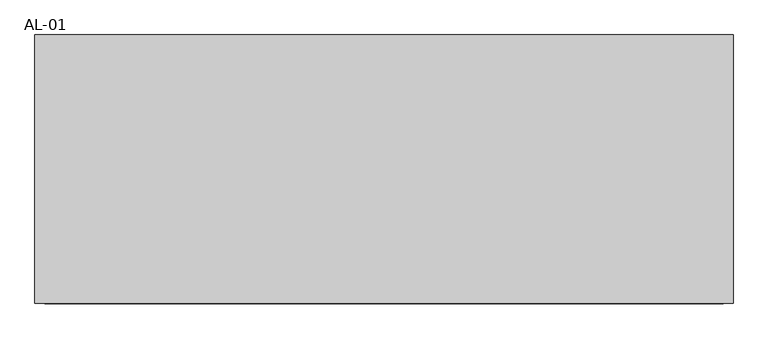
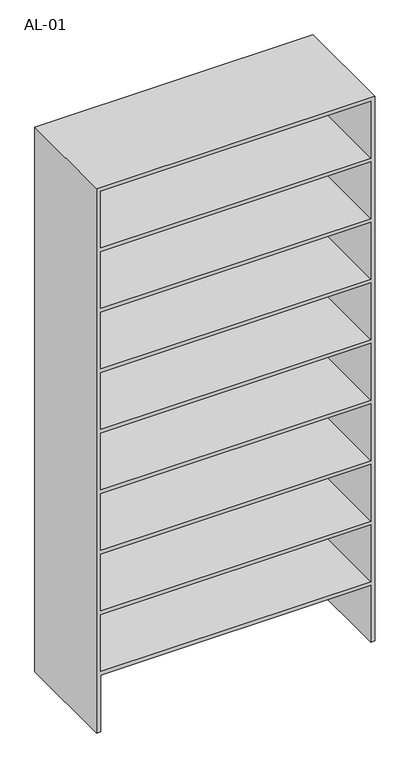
"""IFC4 building model written with IfcOpenShell, lengths in millimetres: furniture geometry, 8 ESTANTES-BLANCOS : AL-01."""

import ifcopenshell
import ifcopenshell.guid

model = None  # the IFC model being written
_history = None  # IfcOwnerHistory: only IFC2X3 demands one
_inside = {}  # id of a spatial element -> (the spatial element, [elements in it])
_under = {}  # id of a project, library or spatial element -> (it, [spatial elements below it])
_declared = {}  # id of a project -> (the project, [libraries it declares])
_typed = {}  # id of a type object -> (the type object, [elements of that type])
_made_of = {}  # id of a material, layer set ... -> (it, [elements and type objects made of it])


def new_model(schema):
    """Start an empty IFC model of exactly this schema.

    Asked for "IFC4X3", IfcOpenShell would pick the latest addendum, in which some entities
    have other attributes; the version numbers below select the first issue.
    IFC2X3 requires an IfcOwnerHistory on every rooted entity: one is made here for all.
    """
    global model, _history
    if schema == "IFC4X3":
        model = ifcopenshell.file(schema_version=(4, 3, 0, 0))
    else:
        model = ifcopenshell.file(schema=schema)
    _inside.clear()
    _under.clear()
    _declared.clear()
    _typed.clear()
    _made_of.clear()
    _history = None
    if model.schema == "IFC2X3":
        org = make("IfcOrganization", Name="unknown")
        user = make(
            "IfcPersonAndOrganization",
            ThePerson=make("IfcPerson", FamilyName="unknown"),
            TheOrganization=org,
        )
        app = make(
            "IfcApplication",
            ApplicationDeveloper=org,
            Version="unknown",
            ApplicationFullName="unknown",
            ApplicationIdentifier="unknown",
        )
        _history = make(
            "IfcOwnerHistory",
            OwningUser=user,
            OwningApplication=app,
            ChangeAction="ADDED",
            CreationDate=0,
        )
    return model


def make(cls, **values):
    """One entity of the class cls with the attributes given. An attribute that is None is left unset."""
    return model.create_entity(
        cls, **{name: value for name, value in values.items() if value is not None}
    )


def rooted(cls, **values):
    """An entity with a GlobalId (a new one), such as an element, a storey or a relation."""
    return make(cls, GlobalId=ifcopenshell.guid.new(), OwnerHistory=_history, **values)


def si_unit(unit_type, name, prefix=None):
    """IfcSIUnit, for example si_unit("LENGTHUNIT", "METRE", prefix="MILLI")."""
    return make("IfcSIUnit", UnitType=unit_type, Prefix=prefix, Name=name)


def assignment(units):
    """IfcUnitAssignment: the units of a project."""
    return None if units is None else make("IfcUnitAssignment", Units=units)


def point(xyz):
    """IfcCartesianPoint."""
    return None if xyz is None else make("IfcCartesianPoint", Coordinates=xyz)


def direction(xyz):
    """IfcDirection."""
    return None if xyz is None else make("IfcDirection", DirectionRatios=xyz)


def frame(location, z_axis=None, x_axis=None):
    """IfcAxis2Placement3D, a coordinate frame: its origin and axes. An axis left out is left unset."""
    return make(
        "IfcAxis2Placement3D",
        Location=point(location),
        Axis=direction(z_axis),
        RefDirection=direction(x_axis),
    )


def origin():
    """The frame at (0, 0, 0) with its axes left unset."""
    return frame((0.0, 0.0, 0.0))


def place(relative_to, where):
    """IfcLocalPlacement: puts the frame where relative to a parent placement (None: the world)."""
    return make(
        "IfcLocalPlacement", PlacementRelTo=relative_to, RelativePlacement=where
    )


def context(
    kind, dimensions, precision=None, world=None, true_north=None, identifier=None
):
    """IfcGeometricRepresentationContext, for example the 3D "Model" context."""
    return make(
        "IfcGeometricRepresentationContext",
        ContextIdentifier=identifier,
        ContextType=kind,
        CoordinateSpaceDimension=dimensions,
        Precision=precision,
        WorldCoordinateSystem=world,
        TrueNorth=true_north,
    )


def project(units=None, contexts=None):
    """IfcProject with its units and contexts."""
    return rooted(
        "IfcProject",
        Name="project",
        RepresentationContexts=contexts,
        UnitsInContext=assignment(units),
    )


def spatial(cls, under=None, at=None, **own):
    """A site, building, storey or space (cls), placed at a placement, below another one or the project."""
    s = rooted(cls, ObjectPlacement=at, **own)
    if under is not None:
        _under.setdefault(under.id(), (under, []))[1].append(s)
    return s


def polyline(points):
    """IfcPolyline through the points."""
    return make("IfcPolyline", Points=[point(p) for p in points])


def outline(outer, holes=None, kind="AREA"):
    """IfcArbitraryClosedProfileDef: a profile drawn as a closed curve; with holes, ...WithVoids."""
    if holes is None:
        return make("IfcArbitraryClosedProfileDef", ProfileType=kind, OuterCurve=outer)
    return make(
        "IfcArbitraryProfileDefWithVoids",
        ProfileType=kind,
        OuterCurve=outer,
        InnerCurves=holes,
    )


def extrude(swept, where, along, depth):
    """IfcExtrudedAreaSolid: the profile swept, set in the frame where, extruded along a direction by depth."""
    return make(
        "IfcExtrudedAreaSolid",
        SweptArea=swept,
        Position=where,
        ExtrudedDirection=direction(along),
        Depth=depth,
    )


def shape(context_of_items, identifier, shape_type, items):
    """IfcShapeRepresentation: the items that make up one representation, for example the "Body"."""
    return make(
        "IfcShapeRepresentation",
        ContextOfItems=context_of_items,
        RepresentationIdentifier=identifier,
        RepresentationType=shape_type,
        Items=items,
    )


def source(mapping_origin, context_of_items, identifier, shape_type, items):
    """IfcRepresentationMap: a shape defined once, which mapped items show again and again."""
    return make(
        "IfcRepresentationMap",
        MappingOrigin=mapping_origin,
        MappedRepresentation=shape(context_of_items, identifier, shape_type, items),
    )


def transform(
    local_origin,
    x_axis=None,
    y_axis=None,
    z_axis=None,
    scale=None,
    scale2=None,
    scale3=None,
    uniform=True,
):
    """IfcCartesianTransformationOperator3D, or its non-uniform kind. x_axis, y_axis, z_axis: its Axis1, 2, 3."""
    if uniform:
        return make(
            "IfcCartesianTransformationOperator3D",
            Axis1=direction(x_axis),
            Axis2=direction(y_axis),
            LocalOrigin=point(local_origin),
            Scale=scale,
            Axis3=direction(z_axis),
        )
    return make(
        "IfcCartesianTransformationOperator3DnonUniform",
        Axis1=direction(x_axis),
        Axis2=direction(y_axis),
        LocalOrigin=point(local_origin),
        Scale=scale,
        Axis3=direction(z_axis),
        Scale2=scale2,
        Scale3=scale3,
    )


def mapped(mapping_source, mapping_target):
    """IfcMappedItem: shows the shape of a source again, moved by a transform."""
    return make(
        "IfcMappedItem", MappingSource=mapping_source, MappingTarget=mapping_target
    )


def made_of(thing, what):
    """Note that an element or type object is made of a material, layer set ...; save() writes the relation."""
    if what is not None:
        _made_of.setdefault(what.id(), (what, []))[1].append(thing)
    return thing


def element(
    cls,
    number,
    at=None,
    inside=None,
    cuts=None,
    type_object=None,
    material=None,
    context=None,
    identifier="Body",
    shape_type=None,
    held_by="IfcProductDefinitionShape",
    body=None,
    shapes=None,
    **own,
):
    """One element of the class cls, such as IfcWall. Its Tag is "e" and its number.

    at: its placement. inside: the storey or other place that contains it. cuts: it is an
    opening in that element (IfcRelVoidsElement). A single representation is given by context,
    identifier, shape_type and body (its items); several are given by shapes. held_by: the class
    of the entity that holds the representations. save() writes the other relations.
    """
    e = rooted(cls, Tag="e%d" % number, ObjectPlacement=at, **own)
    if body is not None:
        shapes = [shape(context, identifier, shape_type, body)]
    if shapes is not None:
        e.Representation = make(held_by, Representations=shapes)
    if inside is not None:
        _inside.setdefault(inside.id(), (inside, []))[1].append(e)
    if cuts is not None:
        rooted(
            "IfcRelVoidsElement", RelatingBuildingElement=cuts, RelatedOpeningElement=e
        )
    if type_object is not None:
        _typed.setdefault(type_object.id(), (type_object, []))[1].append(e)
    return made_of(e, material)


def aggregate(whole, parts):
    """IfcRelAggregates: a whole, such as a stair, and the parts it consists of."""
    return rooted("IfcRelAggregates", RelatingObject=whole, RelatedObjects=parts)


def save(model, path):
    """Write the relations noted so far, then the file.

    IfcRelAggregates (storeys below a building ...), IfcRelContainedInSpatialStructure (elements
    in a storey), IfcRelDefinesByType, IfcRelAssociatesMaterial and IfcRelDeclares: one each for
    every whole, place, type object, material and project.
    """
    for whole, parts in _under.values():
        aggregate(whole, parts)
    for where, things in _inside.values():
        rooted(
            "IfcRelContainedInSpatialStructure",
            RelatedElements=things,
            RelatingStructure=where,
        )
    for kind, things in _typed.values():
        rooted("IfcRelDefinesByType", RelatedObjects=things, RelatingType=kind)
    for what, things in _made_of.values():
        rooted("IfcRelAssociatesMaterial", RelatedObjects=things, RelatingMaterial=what)
    for by, libraries in _declared.values():
        rooted("IfcRelDeclares", RelatingContext=by, RelatedDefinitions=libraries)
    model.write(path)


def al_01_95241845(model_context):
    return source(origin(), model_context, "Body", "SweptSolid", [
        extrude(outline(polyline([(0.0, -636.0697951), (0.0, -621.0697951), (223.8888889, -621.0697951), (223.8888889, 388.9302049), (0.0, 388.9302049), (0.0, 403.9302049), (2150.0, 403.9302049), (2150.0, -636.0697951), (0.0, -636.0697951)]), holes=[polyline([(1418.3333333, 388.9302049), (1194.4444444, 388.9302049), (1194.4444444, -621.0697951), (1418.3333333, -621.0697951), (1418.3333333, 388.9302049)]), polyline([(716.6666667, -621.0697951), (940.5555556, -621.0697951), (940.5555556, 388.9302049), (716.6666667, 388.9302049), (716.6666667, -621.0697951)]), polyline([(477.7777778, -621.0697951), (701.6666667, -621.0697951), (701.6666667, 388.9302049), (477.7777778, 388.9302049), (477.7777778, -621.0697951)]), polyline([(238.8888889, -621.0697951), (462.7777778, -621.0697951), (462.7777778, 388.9302049), (238.8888889, 388.9302049), (238.8888889, -621.0697951)]), polyline([(955.5555556, 388.9302049), (955.5555556, -621.0697951), (1179.4444444, -621.0697951), (1179.4444444, 388.9302049), (955.5555556, 388.9302049)]), polyline([(1911.1111111, -621.0697951), (2135.0, -621.0697951), (2135.0, 388.9302049), (1911.1111111, 388.9302049), (1911.1111111, -621.0697951)]), polyline([(1433.3333333, 388.9302049), (1433.3333333, -621.0697951), (1657.2222222, -621.0697951), (1657.2222222, 388.9302049), (1433.3333333, 388.9302049)]), polyline([(1896.1111111, -621.0697951), (1896.1111111, 388.9302049), (1672.2222222, 388.9302049), (1672.2222222, -621.0697951), (1896.1111111, -621.0697951)])]), frame((0.0, 100.0, 0.0), z_axis=(0.0, 1.0, 0.0), x_axis=(0.0, 0.0, 1.0)), (0.0, 0.0, 1.0), 400.0),
    ])


if __name__ == "__main__":
    model = new_model("IFC4")
    model_context = context("Model", 3, world=origin())
    ifc_project = project(units=[si_unit("LENGTHUNIT", "METRE", prefix="MILLI")], contexts=[model_context])
    site = spatial("IfcSite", under=ifc_project)
    building = spatial("IfcBuilding", under=site)
    placement = place(None, origin())
    al_01_shape = al_01_95241845(model_context)
    element("IfcFurniture", 1, ObjectType="8 ESTANTES-BLANCOS : AL-01", at=placement, inside=building, context=model_context, shape_type="MappedRepresentation", body=[
        mapped(al_01_shape, transform((0.0, 0.0, 0.0), x_axis=(1.0, 0.0, 0.0), y_axis=(0.0, 1.0, 0.0), z_axis=(0.0, 0.0, 1.0))),
    ])
    save(model, "model.ifc")
